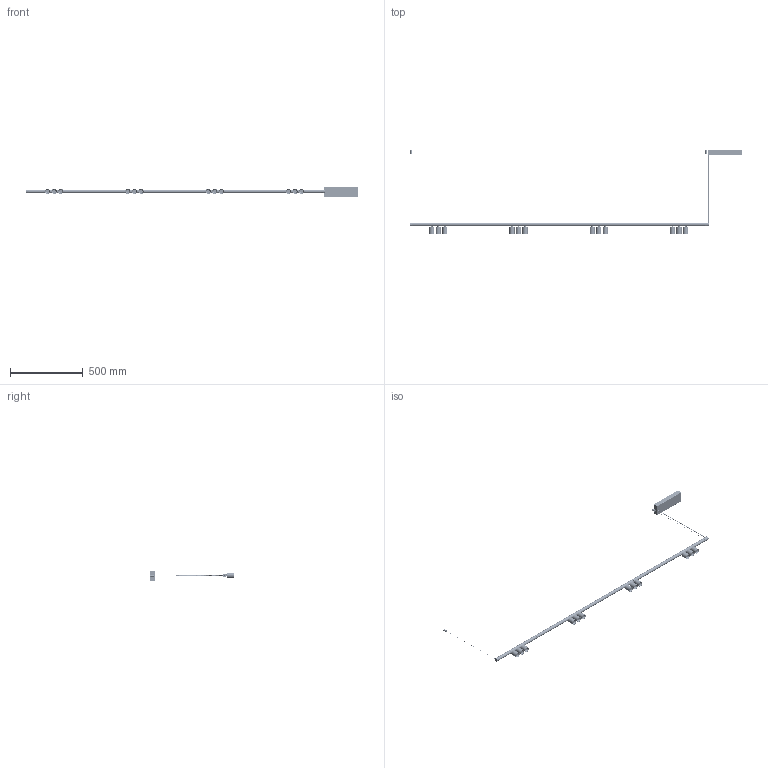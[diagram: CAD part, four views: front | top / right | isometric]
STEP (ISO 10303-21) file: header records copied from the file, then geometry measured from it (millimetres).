
FILE_DESCRIPTION (( 'STEP AP214' ), '1' );
FILE_NAME ('OVAL ROLL 20 surf.STEP', '2024-03-21T09:41:30', ( '' ), ( '' ), 'SwSTEP 2.0', 'SolidWorks 2024', '' );
FILE_SCHEMA (( 'AUTOMOTIVE_DESIGN' ));
Length unit declared in the file: millimetre
Products named in the file (42): 04-23DM03-Tope_Adaptador_1.3; 04-23DM08-Adaptador_Tapa_ Largo (V1.2)_24V; Jack_Scpre; Ensamble Floron Superficie_Colgante; Ensamble Conector Jack Unión_Alimentación Colgante SCPRE; Ensamble MISTER 11 24V_Click; Tapa Micro V5_V5.1; 04-23DM10-Boca Roll 24V_Ajust 1.0; Difusor Negro Oval_0.1m; Driver Entity EN1689; Imán_12d*5; Conector Molex Hembra 43020; Tapon Tapa_2; COB VS MisterR11; CJ04-FOCO ROLL; Regulador Cable Ø0.6 (Bereta LT1007.0601); Taco Micro_Ø10 M10*5; Led VS MISTER 11_Disipador; Difusor Negro Oval_0.4m; Ensamble Tapa + Tope_Con Conector; Prisionero STEAB M4x4_8; CUI_DEVICES_PJ-005B_Ø2.5; Remache 3 Cabeza CONICA_remachado; Cable acero_0.5m; Taco cuerpo Micro; Tuerca Hembra Conector Jack; Essentra Pasamuro 498025; Embellecedor Floron Micro_Micro Colgante; CJ05-ENS_Roll (V1.2)_Proyector; Tapa Alimentación Perfil_SCPRE; Reflector Modulo VS-R11_2; 04-23DM07-Adaptador_Caja_ Larga_DM01.3; Cable_VISUAL Alimentación Micro; Perfil Micro V4_2m; 04-23DM09-Cuerpo Roll 24V; Ensamble Tensor Micro_Con Cable; Tija Tiny_Torno; OVAL ROLL 20 surf; Kgp 100w-24V; Difusor Ø24_.8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
Assembly tree (55 placements, depth 5):
  OVAL ROLL 20 surf
    Perfil Micro V4_2m
    CJ05-ENS_Roll (V1.2)_Proyector  x4
      04-23DM07-Adaptador_Caja_ Larga_DM01.3
      04-23DM08-Adaptador_Tapa_ Largo (V1.2)_24V
      Conector Molex Hembra 43020
      Driver Entity EN1689
      04-23DM03-Tope_Adaptador_1.3
      CJ04-FOCO ROLL
        04-23DM09-Cuerpo Roll 24V
        Ensamble MISTER 11 24V_Click
          Led VS MISTER 11_Disipador
          Reflector Modulo VS-R11_2
          COB VS MisterR11
          Difusor Ø24_.8
          04-23DM10-Boca Roll 24V_Ajust 1.0
      Tija Tiny_Torno
    Difusor Negro Oval_0.1m  x2
    Difusor Negro Oval_0.4m  x3
    Ensamble Tapa + Tope_Con Conector  x2
      Tapa Micro V5_V5.1
      CUI_DEVICES_PJ-005B_Ø2.5
      Tuerca Hembra Conector Jack
    Ensamble Tensor Micro_Con Cable  x2
      Taco Micro_Ø10 M10*5
      Taco cuerpo Micro
      Regulador Cable Ø0.6 (Bereta LT1007.0601)
      Cable acero_0.5m
    Tapa Unión-Final V5_V5.1 Colgante Union   x2
    Ensamble Floron Superficie_Colgante
      Kgp 100w-24V
      Embellecedor Floron Micro_Micro Colgante
      Chapa Floron Micro_Techo
      Remache 3 Cabeza CONICA_remachado  x2
      Imán_12d*5  x2
      Essentra Pasamuro 498025
    Ensamble Conector Jack Unión_Alimentación Colgante SCPRE
      Cable_VISUAL Alimentación Micro
      Jack_Scpre
      Tapa Alimentación Perfil_SCPRE
      Prisionero STEAB M4x4_8
    Tapon Tapa_2
Bounding box: 2274.44 x 574.57 x 75.27 mm (x, y, z)
Volume: 771902.7 mm3; surface area: 1035651.2 mm2
Topology: 142 solids, 144 shells, 22992 faces, 60234 edges, 37812 vertices
Faces by surface type: plane 6943, cylinder 6023, bspline 5883, torus 2075, cone 1500, sphere 568
Entity records: 218148 total; most frequent: CARTESIAN_POINT 102941, ORIENTED_EDGE 25714, DIRECTION 21328, EDGE_CURVE 12857, VERTEX_POINT 8231, AXIS2_PLACEMENT_3D 7158, LINE 7012, VECTOR 7012
